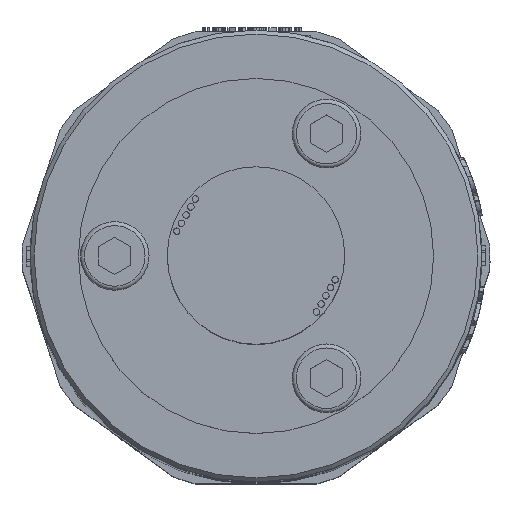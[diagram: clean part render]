
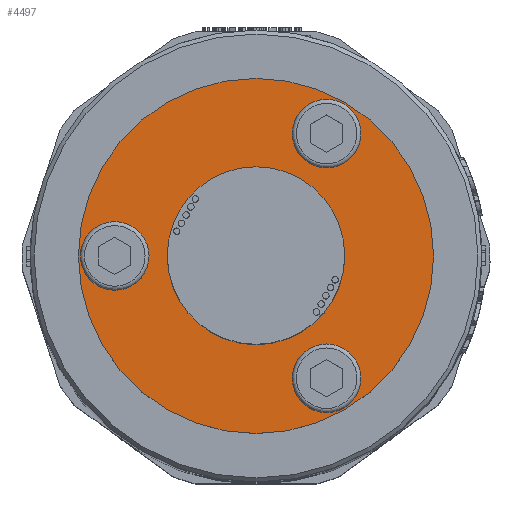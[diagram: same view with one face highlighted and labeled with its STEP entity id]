
A CAD part, top view. The second image highlights one B-rep face of the part: STEP entity #4497.
In plain terms, the highlighted planar face has unit normal (0, 0, 1).
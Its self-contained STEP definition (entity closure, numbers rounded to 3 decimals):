
#692=FACE_BOUND('',#7528,.T.);
#693=FACE_BOUND('',#7529,.T.);
#694=FACE_BOUND('',#7530,.T.);
#695=FACE_BOUND('',#7531,.T.);
#696=FACE_BOUND('',#7532,.T.);
#990=CIRCLE('',#21917,4.25);
#992=CIRCLE('',#21928,4.25);
#995=CIRCLE('',#21941,4.25);
#1019=CIRCLE('',#21998,11.);
#1020=CIRCLE('',#22000,22.);
#4497=ADVANCED_FACE('',(#692,#693,#694,#695,#696),#5052,.T.);
#5052=PLANE('',#22001);
#7528=EDGE_LOOP('',(#13536));
#7529=EDGE_LOOP('',(#13537));
#7530=EDGE_LOOP('',(#13538));
#7531=EDGE_LOOP('',(#13539));
#7532=EDGE_LOOP('',(#13540));
#13536=ORIENTED_EDGE('',*,*,#18482,.F.);
#13537=ORIENTED_EDGE('',*,*,#18496,.F.);
#13538=ORIENTED_EDGE('',*,*,#18517,.F.);
#13539=ORIENTED_EDGE('',*,*,#18560,.T.);
#13540=ORIENTED_EDGE('',*,*,#18559,.F.);
#15558=VERTEX_POINT('',#42695);
#15566=VERTEX_POINT('',#42726);
#15581=VERTEX_POINT('',#42772);
#15617=VERTEX_POINT('',#42883);
#15618=VERTEX_POINT('',#42886);
#18482=EDGE_CURVE('',#15558,#15558,#990,.T.);
#18496=EDGE_CURVE('',#15566,#15566,#992,.T.);
#18517=EDGE_CURVE('',#15581,#15581,#995,.T.);
#18559=EDGE_CURVE('',#15617,#15617,#1019,.T.);
#18560=EDGE_CURVE('',#15618,#15618,#1020,.T.);
#21917=AXIS2_PLACEMENT_3D('',#42694,#25102,#25103);
#21928=AXIS2_PLACEMENT_3D('',#42725,#25136,#25137);
#21941=AXIS2_PLACEMENT_3D('',#42771,#25180,#25181);
#21998=AXIS2_PLACEMENT_3D('',#42882,#25312,#25313);
#22000=AXIS2_PLACEMENT_3D('',#42885,#25316,#25317);
#22001=AXIS2_PLACEMENT_3D('',#42887,#25318,#25319);
#25102=DIRECTION('',(0.,0.,1.));
#25103=DIRECTION('',(-0.866,0.5,0.));
#25136=DIRECTION('',(0.,0.,1.));
#25137=DIRECTION('',(-0.866,0.5,0.));
#25180=DIRECTION('',(0.,0.,1.));
#25181=DIRECTION('',(-0.866,0.5,0.));
#25312=DIRECTION('',(0.,0.,1.));
#25313=DIRECTION('',(0.866,-0.5,0.));
#25316=DIRECTION('',(0.,0.,1.));
#25317=DIRECTION('',(0.866,-0.5,0.));
#25318=DIRECTION('',(0.,0.,1.));
#25319=DIRECTION('',(-0.866,0.5,0.));
#42694=CARTESIAN_POINT('',(8.75,-15.155,152.5));
#42695=CARTESIAN_POINT('',(5.069,-13.03,152.5));
#42725=CARTESIAN_POINT('',(8.75,15.155,152.5));
#42726=CARTESIAN_POINT('',(5.069,17.28,152.5));
#42771=CARTESIAN_POINT('',(-17.5,0.,152.5));
#42772=CARTESIAN_POINT('',(-21.181,2.125,152.5));
#42882=CARTESIAN_POINT('',(0.,0.,152.5));
#42883=CARTESIAN_POINT('',(9.526,-5.5,152.5));
#42885=CARTESIAN_POINT('',(0.,0.,152.5));
#42886=CARTESIAN_POINT('',(19.053,-11.,152.5));
#42887=CARTESIAN_POINT('',(0.,0.,152.5));
